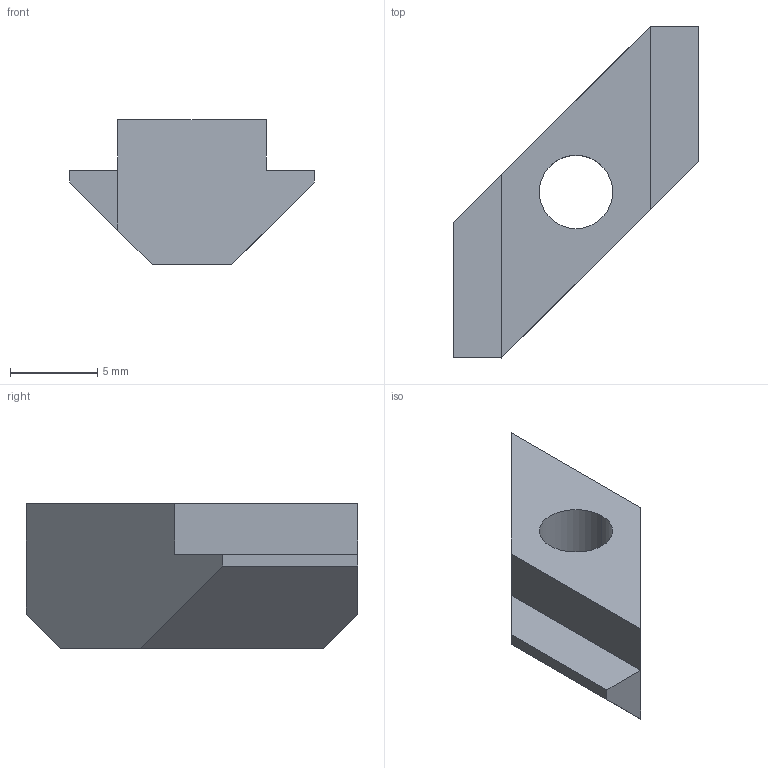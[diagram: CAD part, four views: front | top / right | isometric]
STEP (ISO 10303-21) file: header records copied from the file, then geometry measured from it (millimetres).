
FILE_DESCRIPTION (( 'STEP AP203' ), '1' );
FILE_NAME ('0108NSZNM5.STEP', '2024-03-05T13:34:05', ( 'Windows-Benutzer' ), ( '' ), 'SwSTEP 2.0', 'SolidWorks 2023', '' );
FILE_SCHEMA (( 'CONFIG_CONTROL_DESIGN' ));
Length unit declared in the file: millimetre
Products named in the file (1): 0108NSZNM5
Bounding box: 14 x 19 x 8.3 mm (x, y, z)
Volume: 691.8 mm3; surface area: 686 mm2
Topology: 1 solids, 1 shells, 16 faces, 40 edges, 26 vertices
Faces by surface type: plane 14, cylinder 2
Entity records: 553 total; most frequent: CARTESIAN_POINT 83, ORIENTED_EDGE 80, DIRECTION 78, EDGE_CURVE 40, VECTOR 36, LINE 36, VERTEX_POINT 26, AXIS2_PLACEMENT_3D 21
